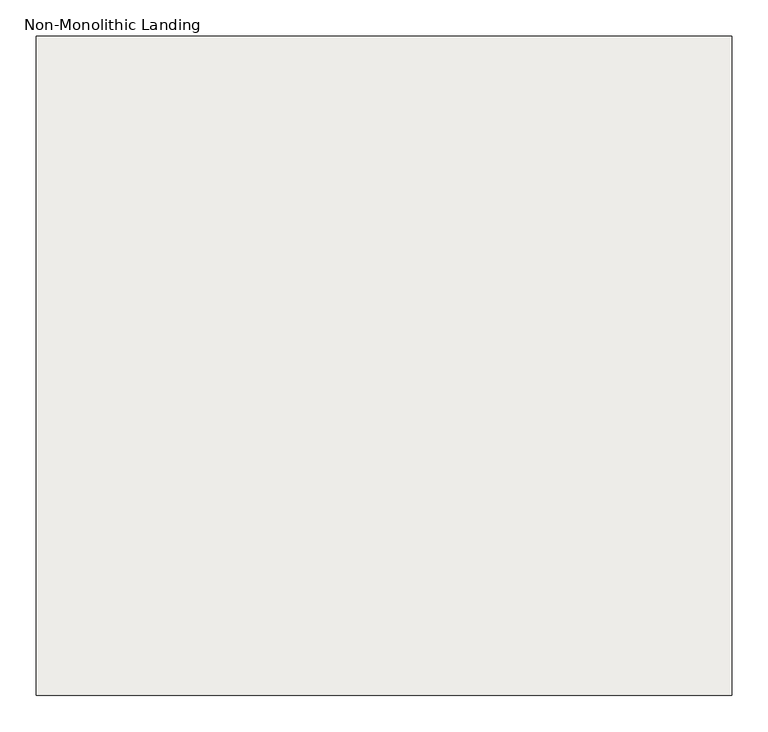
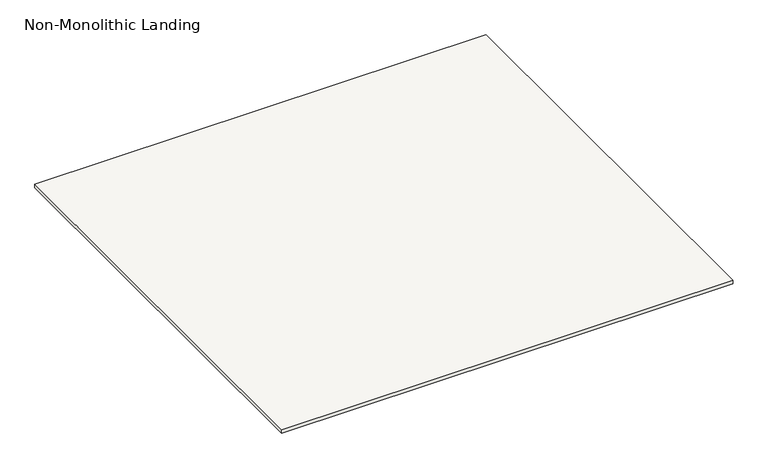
"""IFC4 building model written with IfcOpenShell, lengths in millimetres: slab geometry, Non-Monolithic Landing."""

from ifc_helpers import new_model, si_unit, frame, origin, place, context, project, spatial, polyline, outline, extrude, source, transform, mapped, element, save


def non_monolithic_landing_d1942d96(model_context):
    return source(origin(), model_context, "Body", "SweptSolid", [
        extrude(outline(polyline([(10975.0, 8759.9999985), (11934.6418129, 8759.9999985), (11934.6418129, 7849.9999985), (10975.0, 7849.9999985), (10975.0, 8759.9999985)])), frame((0.0, 0.0, 10742.5), z_axis=(0.0, 0.0, 1.0), x_axis=(1.0, 0.0, 0.0)), (0.0, 0.0, 1.0), 7.5),
    ])


if __name__ == "__main__":
    model = new_model("IFC4")
    model_context = context("Model", 3, world=origin())
    ifc_project = project(units=[si_unit("LENGTHUNIT", "METRE", prefix="MILLI")], contexts=[model_context])
    site = spatial("IfcSite", under=ifc_project)
    building = spatial("IfcBuilding", under=site)
    placement = place(None, origin())
    non_monolithic_landing_shape = non_monolithic_landing_d1942d96(model_context)
    element("IfcSlab", 1, ObjectType="Non-Monolithic Landing", at=placement, inside=building, context=model_context, shape_type="MappedRepresentation", body=[
        mapped(non_monolithic_landing_shape, transform((0.0, 0.0, 0.0), x_axis=(1.0, 0.0, 0.0), y_axis=(0.0, 1.0, 0.0), z_axis=(0.0, 0.0, 1.0))),
    ])
    save(model, "model.ifc")
